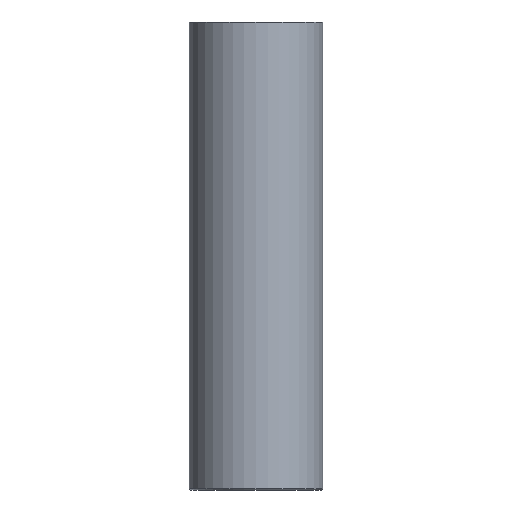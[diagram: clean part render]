
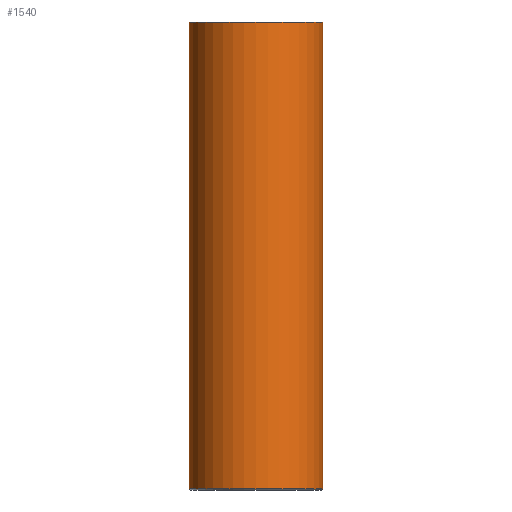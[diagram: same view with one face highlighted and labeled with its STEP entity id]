
A CAD part, front view. The second image highlights one B-rep face of the part: STEP entity #1540.
In plain terms, the highlighted cylindrical face has radius 88.9 mm (diameter 177.8 mm), a full revolution.
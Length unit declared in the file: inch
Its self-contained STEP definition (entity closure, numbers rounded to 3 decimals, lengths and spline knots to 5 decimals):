
#636 = CIRCLE ( 'NONE', #5339, 3.5 ) ;
#638 = CIRCLE ( 'NONE', #5511, 3.5 ) ;
#1432 = CARTESIAN_POINT ( 'NONE',  ( -3.5, 0., 12.29 ) ) ;
#1540 = ADVANCED_FACE ( 'NONE', ( #12677, #12656 ), #12654, .T. ) ;
#4451 = DIRECTION ( 'NONE',  ( -1., 0., 0. ) ) ;
#4452 = DIRECTION ( 'NONE',  ( 0., 0., 1. ) ) ;
#4453 = CARTESIAN_POINT ( 'NONE',  ( 0., 0., -12.2275 ) ) ;
#4457 = DIRECTION ( 'NONE',  ( -1., 0., 0. ) ) ;
#4458 = DIRECTION ( 'NONE',  ( 0., 0., -1. ) ) ;
#4459 = CARTESIAN_POINT ( 'NONE',  ( 0., 0., 12.29 ) ) ;
#5339 = AXIS2_PLACEMENT_3D ( 'NONE', #4453, #4452, #4451 ) ;
#5511 = AXIS2_PLACEMENT_3D ( 'NONE', #4459, #4458, #4457 ) ;
#6384 = AXIS2_PLACEMENT_3D ( 'NONE', #18548, #18547, #18550 ) ;
#7334 = VERTEX_POINT ( 'NONE', #23542 ) ;
#7336 = VERTEX_POINT ( 'NONE', #1432 ) ;
#10440 = ORIENTED_EDGE ( 'NONE', *, *, #16928, .T. ) ;
#10441 = ORIENTED_EDGE ( 'NONE', *, *, #16931, .T. ) ;
#12654 = CYLINDRICAL_SURFACE ( 'NONE', #6384, 3.5 ) ;
#12656 = FACE_OUTER_BOUND ( 'NONE', #14011, .T. ) ;
#12677 = FACE_OUTER_BOUND ( 'NONE', #14024, .T. ) ;
#14011 = EDGE_LOOP ( 'NONE', ( #10440 ) ) ;
#14024 = EDGE_LOOP ( 'NONE', ( #10441 ) ) ;
#16928 = EDGE_CURVE ( 'NONE', #7336, #7336, #638, .T. ) ;
#16931 = EDGE_CURVE ( 'NONE', #7334, #7334, #636, .T. ) ;
#18547 = DIRECTION ( 'NONE',  ( 0., 0., -1. ) ) ;
#18548 = CARTESIAN_POINT ( 'NONE',  ( 0., 0., -13.585 ) ) ;
#18550 = DIRECTION ( 'NONE',  ( -1., 0., 0. ) ) ;
#23542 = CARTESIAN_POINT ( 'NONE',  ( -3.5, 0., -12.2275 ) ) ;
